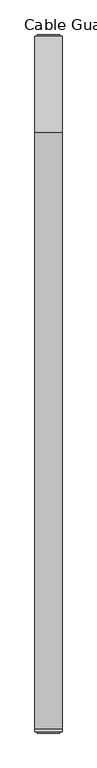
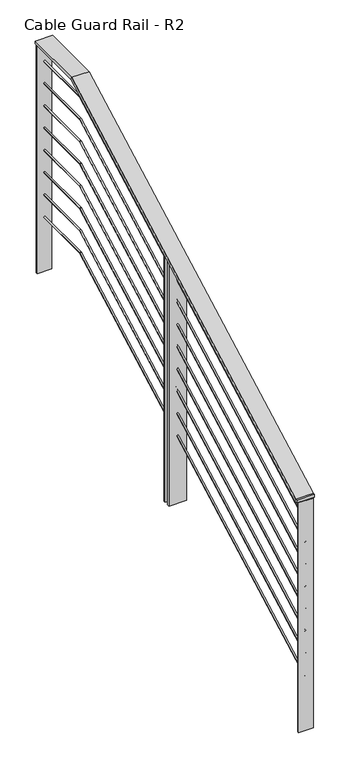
"""IFC4 building model written with IfcOpenShell, lengths in millimetres: railing geometry, Cable Guard Rail - R2."""

from ifc_helpers import new_model, si_unit, frame, origin, place, context, project, spatial, polyline, circle_curve, ellipse_curve, outline, extrude, faceted_brep, source, transform, mapped, element, save
from ifc_brep_helpers import plane_surface, cylinder_surface, advanced_brep


def cable_guard_rail_r2_296d2862(model_context):
    return source(origin(), model_context, "Body", "SolidModel", [
        faceted_brep([(26213.5044304, 188213.6496196, 295014.65), (26137.3044304, 188213.6496196, 295014.65), (26137.3044304, 188213.6496196, 295001.95), (26213.5044304, 188213.6496196, 295001.95), (26213.5044304, 188220.7414421, 295014.65), (26137.3044304, 188220.7414421, 295014.65), (26137.3044304, 188223.960099, 295001.95), (26213.5044304, 188223.960099, 295001.95), (26213.5044304, 189897.1414421, 295922.7), (26137.3044304, 189897.1414421, 295922.7), (26137.3044304, 189900.360099, 295910.0), (26213.5044304, 189900.360099, 295910.0), (26213.5044304, 190169.4496196, 295922.7), (26213.5044304, 190169.4496196, 295910.0), (26137.3044304, 190169.4496196, 295910.0), (26137.3044304, 190169.4496196, 295922.7)], [[[0, 1, 2, 3]], [[1, 0, 4, 5]], [[2, 1, 5, 6]], [[3, 2, 6, 7]], [[0, 3, 7, 4]], [[5, 4, 8, 9]], [[6, 5, 9, 10]], [[7, 6, 10, 11]], [[4, 7, 11, 8]], [[12, 13, 14, 15]], [[9, 8, 12, 15]], [[10, 9, 15, 14]], [[11, 10, 14, 13]], [[8, 11, 13, 12]]]),
        advanced_brep(
        [(26172.2294304, 188213.6496196, 294913.05), (26178.5794304, 188213.6496196, 294913.05), (26172.2294304, 188220.7414421, 294913.05), (26178.5794304, 188220.7414421, 294913.05), (26172.2294304, 189897.1414421, 295821.1), (26178.5794304, 189897.1414421, 295821.1), (26172.2294304, 190169.4496196, 295821.1), (26178.5794304, 190169.4496196, 295821.1)],
        [
            (0, 1, circle_curve(frame((26175.4044304, 188213.6496196, 294913.05), z_axis=(0.0, -1.0, 0.0), x_axis=(1.0, 0.0, 0.0)), 3.175)),
            (1, 0, circle_curve(frame((26175.4044304, 188213.6496196, 294913.05), z_axis=(0.0, -1.0, 0.0), x_axis=(1.0, 0.0, 0.0)), 3.175)),
            (0, 2),
            (2, 3, ellipse_curve(frame((26175.4044304, 188220.7414421, 294913.05), z_axis=(0.0, -0.9693533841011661, -0.24567054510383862), x_axis=(0.0, -0.24567054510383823, 0.9693533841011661)), 3.2753793, 3.175)),
            (3, 1),
            (3, 2, ellipse_curve(frame((26175.4044304, 188220.7414421, 294913.05), z_axis=(0.0, -0.9693533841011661, -0.24567054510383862), x_axis=(0.0, -0.24567054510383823, 0.9693533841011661)), 3.2753793, 3.175)),
            (2, 4),
            (4, 5, ellipse_curve(frame((26175.4044304, 189897.1414421, 295821.1), z_axis=(0.0, -0.9693533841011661, -0.24567054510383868), x_axis=(0.0, 0.24567054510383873, -0.969353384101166)), 3.2753793, 3.175)),
            (5, 3),
            (5, 4, ellipse_curve(frame((26175.4044304, 189897.1414421, 295821.1), z_axis=(0.0, -0.9693533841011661, -0.24567054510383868), x_axis=(0.0, 0.24567054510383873, -0.969353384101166)), 3.2753793, 3.175)),
            (6, 7, circle_curve(frame((26175.4044304, 190169.4496196, 295821.1), z_axis=(0.0, 1.0, 0.0), x_axis=(1.0, 0.0, 0.0)), 3.175)),
            (7, 6, circle_curve(frame((26175.4044304, 190169.4496196, 295821.1), z_axis=(0.0, 1.0, 0.0), x_axis=(1.0, 0.0, 0.0)), 3.175)),
            (4, 6),
            (7, 5),
        ],
        [
            plane_surface(frame((26175.4044304, 188213.6496196, 294913.05), z_axis=(0.0, -1.0, 0.0), x_axis=(0.0, 0.0, 1.0))),
            cylinder_surface(frame((26175.4044304, 188213.6496196, 294913.05), z_axis=(0.0, -1.0, 0.0), x_axis=(1.0, 0.0, 0.0)), 3.175),
            cylinder_surface(frame((26175.4044304, 188220.7414421, 294913.05), z_axis=(0.0, -0.8792919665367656, -0.4762831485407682), x_axis=(1.0, 0.0, 0.0)), 3.175),
            plane_surface(frame((26175.4044304, 190169.4496196, 295821.1), z_axis=(0.0, 1.0, 0.0), x_axis=(0.0, 0.0, 1.0))),
            cylinder_surface(frame((26175.4044304, 189897.1414421, 295821.1), z_axis=(0.0, -1.0, 0.0), x_axis=(1.0, 0.0, 0.0)), 3.175),
        ],
        [
            (0, [[1, 2]]),
            (1, [[-1, 3, 4, 5]]),
            (1, [[-2, -5, 6, -3]]),
            (2, [[-4, 7, 8, 9]]),
            (2, [[-6, -9, 10, -7]]),
            (3, [[11, 12]]),
            (4, [[-8, 13, -12, 14]]),
            (4, [[-10, -14, -11, -13]]),
        ],
    ),
        advanced_brep(
        [(26172.2294304, 188213.6496196, 294811.45), (26178.5794304, 188213.6496196, 294811.45), (26172.2294304, 188220.7414421, 294811.45), (26178.5794304, 188220.7414421, 294811.45), (26172.2294304, 189897.1414421, 295719.5), (26178.5794304, 189897.1414421, 295719.5), (26172.2294304, 190169.4496196, 295719.5), (26178.5794304, 190169.4496196, 295719.5)],
        [
            (0, 1, circle_curve(frame((26175.4044304, 188213.6496196, 294811.45), z_axis=(0.0, -1.0, 0.0), x_axis=(1.0, 0.0, 0.0)), 3.175)),
            (1, 0, circle_curve(frame((26175.4044304, 188213.6496196, 294811.45), z_axis=(0.0, -1.0, 0.0), x_axis=(1.0, 0.0, 0.0)), 3.175)),
            (0, 2),
            (2, 3, ellipse_curve(frame((26175.4044304, 188220.7414421, 294811.45), z_axis=(0.0, -0.9693533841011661, -0.24567054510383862), x_axis=(0.0, -0.24567054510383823, 0.9693533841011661)), 3.2753793, 3.175)),
            (3, 1),
            (3, 2, ellipse_curve(frame((26175.4044304, 188220.7414421, 294811.45), z_axis=(0.0, -0.9693533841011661, -0.24567054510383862), x_axis=(0.0, -0.24567054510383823, 0.9693533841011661)), 3.2753793, 3.175)),
            (2, 4),
            (4, 5, ellipse_curve(frame((26175.4044304, 189897.1414421, 295719.5), z_axis=(0.0, -0.9693533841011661, -0.24567054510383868), x_axis=(0.0, 0.24567054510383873, -0.969353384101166)), 3.2753793, 3.175)),
            (5, 3),
            (5, 4, ellipse_curve(frame((26175.4044304, 189897.1414421, 295719.5), z_axis=(0.0, -0.9693533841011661, -0.24567054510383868), x_axis=(0.0, 0.24567054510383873, -0.969353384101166)), 3.2753793, 3.175)),
            (6, 7, circle_curve(frame((26175.4044304, 190169.4496196, 295719.5), z_axis=(0.0, 1.0, 0.0), x_axis=(1.0, 0.0, 0.0)), 3.175)),
            (7, 6, circle_curve(frame((26175.4044304, 190169.4496196, 295719.5), z_axis=(0.0, 1.0, 0.0), x_axis=(1.0, 0.0, 0.0)), 3.175)),
            (4, 6),
            (7, 5),
        ],
        [
            plane_surface(frame((26175.4044304, 188213.6496196, 294811.45), z_axis=(0.0, -1.0, 0.0), x_axis=(0.0, 0.0, 1.0))),
            cylinder_surface(frame((26175.4044304, 188213.6496196, 294811.45), z_axis=(0.0, -1.0, 0.0), x_axis=(1.0, 0.0, 0.0)), 3.175),
            cylinder_surface(frame((26175.4044304, 188220.7414421, 294811.45), z_axis=(0.0, -0.8792919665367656, -0.4762831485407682), x_axis=(1.0, 0.0, 0.0)), 3.175),
            plane_surface(frame((26175.4044304, 190169.4496196, 295719.5), z_axis=(0.0, 1.0, 0.0), x_axis=(0.0, 0.0, 1.0))),
            cylinder_surface(frame((26175.4044304, 189897.1414421, 295719.5), z_axis=(0.0, -1.0, 0.0), x_axis=(1.0, 0.0, 0.0)), 3.175),
        ],
        [
            (0, [[1, 2]]),
            (1, [[-1, 3, 4, 5]]),
            (1, [[-2, -5, 6, -3]]),
            (2, [[-4, 7, 8, 9]]),
            (2, [[-6, -9, 10, -7]]),
            (3, [[11, 12]]),
            (4, [[-8, 13, -12, 14]]),
            (4, [[-10, -14, -11, -13]]),
        ],
    ),
        advanced_brep(
        [(26172.2294304, 188213.6496196, 294709.85), (26178.5794304, 188213.6496196, 294709.85), (26172.2294304, 188220.7414421, 294709.85), (26178.5794304, 188220.7414421, 294709.85), (26172.2294304, 189897.1414421, 295617.9), (26178.5794304, 189897.1414421, 295617.9), (26172.2294304, 190169.4496196, 295617.9), (26178.5794304, 190169.4496196, 295617.9)],
        [
            (0, 1, circle_curve(frame((26175.4044304, 188213.6496196, 294709.85), z_axis=(0.0, -1.0, 0.0), x_axis=(1.0, 0.0, 0.0)), 3.175)),
            (1, 0, circle_curve(frame((26175.4044304, 188213.6496196, 294709.85), z_axis=(0.0, -1.0, 0.0), x_axis=(1.0, 0.0, 0.0)), 3.175)),
            (0, 2),
            (2, 3, ellipse_curve(frame((26175.4044304, 188220.7414421, 294709.85), z_axis=(0.0, -0.9693533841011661, -0.24567054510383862), x_axis=(0.0, -0.24567054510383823, 0.9693533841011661)), 3.2753793, 3.175)),
            (3, 1),
            (3, 2, ellipse_curve(frame((26175.4044304, 188220.7414421, 294709.85), z_axis=(0.0, -0.9693533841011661, -0.24567054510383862), x_axis=(0.0, -0.24567054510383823, 0.9693533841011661)), 3.2753793, 3.175)),
            (2, 4),
            (4, 5, ellipse_curve(frame((26175.4044304, 189897.1414421, 295617.9), z_axis=(0.0, -0.9693533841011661, -0.24567054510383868), x_axis=(0.0, 0.24567054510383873, -0.969353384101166)), 3.2753793, 3.175)),
            (5, 3),
            (5, 4, ellipse_curve(frame((26175.4044304, 189897.1414421, 295617.9), z_axis=(0.0, -0.9693533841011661, -0.24567054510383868), x_axis=(0.0, 0.24567054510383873, -0.969353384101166)), 3.2753793, 3.175)),
            (6, 7, circle_curve(frame((26175.4044304, 190169.4496196, 295617.9), z_axis=(0.0, 1.0, 0.0), x_axis=(1.0, 0.0, 0.0)), 3.175)),
            (7, 6, circle_curve(frame((26175.4044304, 190169.4496196, 295617.9), z_axis=(0.0, 1.0, 0.0), x_axis=(1.0, 0.0, 0.0)), 3.175)),
            (4, 6),
            (7, 5),
        ],
        [
            plane_surface(frame((26175.4044304, 188213.6496196, 294709.85), z_axis=(0.0, -1.0, 0.0), x_axis=(0.0, 0.0, 1.0))),
            cylinder_surface(frame((26175.4044304, 188213.6496196, 294709.85), z_axis=(0.0, -1.0, 0.0), x_axis=(1.0, 0.0, 0.0)), 3.175),
            cylinder_surface(frame((26175.4044304, 188220.7414421, 294709.85), z_axis=(0.0, -0.8792919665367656, -0.4762831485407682), x_axis=(1.0, 0.0, 0.0)), 3.175),
            plane_surface(frame((26175.4044304, 190169.4496196, 295617.9), z_axis=(0.0, 1.0, 0.0), x_axis=(0.0, 0.0, 1.0))),
            cylinder_surface(frame((26175.4044304, 189897.1414421, 295617.9), z_axis=(0.0, -1.0, 0.0), x_axis=(1.0, 0.0, 0.0)), 3.175),
        ],
        [
            (0, [[1, 2]]),
            (1, [[-1, 3, 4, 5]]),
            (1, [[-2, -5, 6, -3]]),
            (2, [[-4, 7, 8, 9]]),
            (2, [[-6, -9, 10, -7]]),
            (3, [[11, 12]]),
            (4, [[-8, 13, -12, 14]]),
            (4, [[-10, -14, -11, -13]]),
        ],
    ),
        advanced_brep(
        [(26172.2294304, 188213.6496196, 294608.25), (26178.5794304, 188213.6496196, 294608.25), (26172.2294304, 188220.7414421, 294608.25), (26178.5794304, 188220.7414421, 294608.25), (26172.2294304, 189897.1414421, 295516.3), (26178.5794304, 189897.1414421, 295516.3), (26172.2294304, 190169.4496196, 295516.3), (26178.5794304, 190169.4496196, 295516.3)],
        [
            (0, 1, circle_curve(frame((26175.4044304, 188213.6496196, 294608.25), z_axis=(0.0, -1.0, 0.0), x_axis=(1.0, 0.0, 0.0)), 3.175)),
            (1, 0, circle_curve(frame((26175.4044304, 188213.6496196, 294608.25), z_axis=(0.0, -1.0, 0.0), x_axis=(1.0, 0.0, 0.0)), 3.175)),
            (0, 2),
            (2, 3, ellipse_curve(frame((26175.4044304, 188220.7414421, 294608.25), z_axis=(0.0, -0.9693533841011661, -0.24567054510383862), x_axis=(0.0, -0.24567054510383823, 0.9693533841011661)), 3.2753793, 3.175)),
            (3, 1),
            (3, 2, ellipse_curve(frame((26175.4044304, 188220.7414421, 294608.25), z_axis=(0.0, -0.9693533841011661, -0.24567054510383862), x_axis=(0.0, -0.24567054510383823, 0.9693533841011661)), 3.2753793, 3.175)),
            (2, 4),
            (4, 5, ellipse_curve(frame((26175.4044304, 189897.1414421, 295516.3), z_axis=(0.0, -0.9693533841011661, -0.24567054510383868), x_axis=(0.0, 0.24567054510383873, -0.969353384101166)), 3.2753793, 3.175)),
            (5, 3),
            (5, 4, ellipse_curve(frame((26175.4044304, 189897.1414421, 295516.3), z_axis=(0.0, -0.9693533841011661, -0.24567054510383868), x_axis=(0.0, 0.24567054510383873, -0.969353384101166)), 3.2753793, 3.175)),
            (6, 7, circle_curve(frame((26175.4044304, 190169.4496196, 295516.3), z_axis=(0.0, 1.0, 0.0), x_axis=(1.0, 0.0, 0.0)), 3.175)),
            (7, 6, circle_curve(frame((26175.4044304, 190169.4496196, 295516.3), z_axis=(0.0, 1.0, 0.0), x_axis=(1.0, 0.0, 0.0)), 3.175)),
            (4, 6),
            (7, 5),
        ],
        [
            plane_surface(frame((26175.4044304, 188213.6496196, 294608.25), z_axis=(0.0, -1.0, 0.0), x_axis=(0.0, 0.0, 1.0))),
            cylinder_surface(frame((26175.4044304, 188213.6496196, 294608.25), z_axis=(0.0, -1.0, 0.0), x_axis=(1.0, 0.0, 0.0)), 3.175),
            cylinder_surface(frame((26175.4044304, 188220.7414421, 294608.25), z_axis=(0.0, -0.8792919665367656, -0.4762831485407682), x_axis=(1.0, 0.0, 0.0)), 3.175),
            plane_surface(frame((26175.4044304, 190169.4496196, 295516.3), z_axis=(0.0, 1.0, 0.0), x_axis=(0.0, 0.0, 1.0))),
            cylinder_surface(frame((26175.4044304, 189897.1414421, 295516.3), z_axis=(0.0, -1.0, 0.0), x_axis=(1.0, 0.0, 0.0)), 3.175),
        ],
        [
            (0, [[1, 2]]),
            (1, [[-1, 3, 4, 5]]),
            (1, [[-2, -5, 6, -3]]),
            (2, [[-4, 7, 8, 9]]),
            (2, [[-6, -9, 10, -7]]),
            (3, [[11, 12]]),
            (4, [[-8, 13, -12, 14]]),
            (4, [[-10, -14, -11, -13]]),
        ],
    ),
        advanced_brep(
        [(26172.2294304, 188213.6496196, 294506.65), (26178.5794304, 188213.6496196, 294506.65), (26172.2294304, 188220.7414421, 294506.65), (26178.5794304, 188220.7414421, 294506.65), (26172.2294304, 189897.1414421, 295414.7), (26178.5794304, 189897.1414421, 295414.7), (26172.2294304, 190169.4496196, 295414.7), (26178.5794304, 190169.4496196, 295414.7)],
        [
            (0, 1, circle_curve(frame((26175.4044304, 188213.6496196, 294506.65), z_axis=(0.0, -1.0, 0.0), x_axis=(1.0, 0.0, 0.0)), 3.175)),
            (1, 0, circle_curve(frame((26175.4044304, 188213.6496196, 294506.65), z_axis=(0.0, -1.0, 0.0), x_axis=(1.0, 0.0, 0.0)), 3.175)),
            (0, 2),
            (2, 3, ellipse_curve(frame((26175.4044304, 188220.7414421, 294506.65), z_axis=(0.0, -0.9693533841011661, -0.24567054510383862), x_axis=(0.0, -0.24567054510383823, 0.9693533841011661)), 3.2753793, 3.175)),
            (3, 1),
            (3, 2, ellipse_curve(frame((26175.4044304, 188220.7414421, 294506.65), z_axis=(0.0, -0.9693533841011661, -0.24567054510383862), x_axis=(0.0, -0.24567054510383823, 0.9693533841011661)), 3.2753793, 3.175)),
            (2, 4),
            (4, 5, ellipse_curve(frame((26175.4044304, 189897.1414421, 295414.7), z_axis=(0.0, -0.9693533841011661, -0.24567054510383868), x_axis=(0.0, 0.24567054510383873, -0.969353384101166)), 3.2753793, 3.175)),
            (5, 3),
            (5, 4, ellipse_curve(frame((26175.4044304, 189897.1414421, 295414.7), z_axis=(0.0, -0.9693533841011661, -0.24567054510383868), x_axis=(0.0, 0.24567054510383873, -0.969353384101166)), 3.2753793, 3.175)),
            (6, 7, circle_curve(frame((26175.4044304, 190169.4496196, 295414.7), z_axis=(0.0, 1.0, 0.0), x_axis=(1.0, 0.0, 0.0)), 3.175)),
            (7, 6, circle_curve(frame((26175.4044304, 190169.4496196, 295414.7), z_axis=(0.0, 1.0, 0.0), x_axis=(1.0, 0.0, 0.0)), 3.175)),
            (4, 6),
            (7, 5),
        ],
        [
            plane_surface(frame((26175.4044304, 188213.6496196, 294506.65), z_axis=(0.0, -1.0, 0.0), x_axis=(0.0, 0.0, 1.0))),
            cylinder_surface(frame((26175.4044304, 188213.6496196, 294506.65), z_axis=(0.0, -1.0, 0.0), x_axis=(1.0, 0.0, 0.0)), 3.175),
            cylinder_surface(frame((26175.4044304, 188220.7414421, 294506.65), z_axis=(0.0, -0.8792919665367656, -0.4762831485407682), x_axis=(1.0, 0.0, 0.0)), 3.175),
            plane_surface(frame((26175.4044304, 190169.4496196, 295414.7), z_axis=(0.0, 1.0, 0.0), x_axis=(0.0, 0.0, 1.0))),
            cylinder_surface(frame((26175.4044304, 189897.1414421, 295414.7), z_axis=(0.0, -1.0, 0.0), x_axis=(1.0, 0.0, 0.0)), 3.175),
        ],
        [
            (0, [[1, 2]]),
            (1, [[-1, 3, 4, 5]]),
            (1, [[-2, -5, 6, -3]]),
            (2, [[-4, 7, 8, 9]]),
            (2, [[-6, -9, 10, -7]]),
            (3, [[11, 12]]),
            (4, [[-8, 13, -12, 14]]),
            (4, [[-10, -14, -11, -13]]),
        ],
    ),
        advanced_brep(
        [(26172.2294304, 188213.6496196, 294405.05), (26178.5794304, 188213.6496196, 294405.05), (26172.2294304, 188220.7414421, 294405.05), (26178.5794304, 188220.7414421, 294405.05), (26172.2294304, 189897.1414421, 295313.1), (26178.5794304, 189897.1414421, 295313.1), (26172.2294304, 190169.4496196, 295313.1), (26178.5794304, 190169.4496196, 295313.1)],
        [
            (0, 1, circle_curve(frame((26175.4044304, 188213.6496196, 294405.05), z_axis=(0.0, -1.0, 0.0), x_axis=(1.0, 0.0, 0.0)), 3.175)),
            (1, 0, circle_curve(frame((26175.4044304, 188213.6496196, 294405.05), z_axis=(0.0, -1.0, 0.0), x_axis=(1.0, 0.0, 0.0)), 3.175)),
            (0, 2),
            (2, 3, ellipse_curve(frame((26175.4044304, 188220.7414421, 294405.05), z_axis=(0.0, -0.9693533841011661, -0.24567054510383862), x_axis=(0.0, -0.24567054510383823, 0.9693533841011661)), 3.2753793, 3.175)),
            (3, 1),
            (3, 2, ellipse_curve(frame((26175.4044304, 188220.7414421, 294405.05), z_axis=(0.0, -0.9693533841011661, -0.24567054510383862), x_axis=(0.0, -0.24567054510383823, 0.9693533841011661)), 3.2753793, 3.175)),
            (2, 4),
            (4, 5, ellipse_curve(frame((26175.4044304, 189897.1414421, 295313.1), z_axis=(0.0, -0.9693533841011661, -0.24567054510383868), x_axis=(0.0, 0.24567054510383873, -0.969353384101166)), 3.2753793, 3.175)),
            (5, 3),
            (5, 4, ellipse_curve(frame((26175.4044304, 189897.1414421, 295313.1), z_axis=(0.0, -0.9693533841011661, -0.24567054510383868), x_axis=(0.0, 0.24567054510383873, -0.969353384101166)), 3.2753793, 3.175)),
            (6, 7, circle_curve(frame((26175.4044304, 190169.4496196, 295313.1), z_axis=(0.0, 1.0, 0.0), x_axis=(1.0, 0.0, 0.0)), 3.175)),
            (7, 6, circle_curve(frame((26175.4044304, 190169.4496196, 295313.1), z_axis=(0.0, 1.0, 0.0), x_axis=(1.0, 0.0, 0.0)), 3.175)),
            (4, 6),
            (7, 5),
        ],
        [
            plane_surface(frame((26175.4044304, 188213.6496196, 294405.05), z_axis=(0.0, -1.0, 0.0), x_axis=(0.0, 0.0, 1.0))),
            cylinder_surface(frame((26175.4044304, 188213.6496196, 294405.05), z_axis=(0.0, -1.0, 0.0), x_axis=(1.0, 0.0, 0.0)), 3.175),
            cylinder_surface(frame((26175.4044304, 188220.7414421, 294405.05), z_axis=(0.0, -0.8792919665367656, -0.4762831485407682), x_axis=(1.0, 0.0, 0.0)), 3.175),
            plane_surface(frame((26175.4044304, 190169.4496196, 295313.1), z_axis=(0.0, 1.0, 0.0), x_axis=(0.0, 0.0, 1.0))),
            cylinder_surface(frame((26175.4044304, 189897.1414421, 295313.1), z_axis=(0.0, -1.0, 0.0), x_axis=(1.0, 0.0, 0.0)), 3.175),
        ],
        [
            (0, [[1, 2]]),
            (1, [[-1, 3, 4, 5]]),
            (1, [[-2, -5, 6, -3]]),
            (2, [[-4, 7, 8, 9]]),
            (2, [[-6, -9, 10, -7]]),
            (3, [[11, 12]]),
            (4, [[-8, 13, -12, 14]]),
            (4, [[-10, -14, -11, -13]]),
        ],
    ),
        advanced_brep(
        [(26172.2294304, 188213.6496196, 294303.45), (26178.5794304, 188213.6496196, 294303.45), (26172.2294304, 188220.7414421, 294303.45), (26178.5794304, 188220.7414421, 294303.45), (26172.2294304, 189897.1414421, 295211.5), (26178.5794304, 189897.1414421, 295211.5), (26172.2294304, 190169.4496196, 295211.5), (26178.5794304, 190169.4496196, 295211.5)],
        [
            (0, 1, circle_curve(frame((26175.4044304, 188213.6496196, 294303.45), z_axis=(0.0, -1.0, 0.0), x_axis=(1.0, 0.0, 0.0)), 3.175)),
            (1, 0, circle_curve(frame((26175.4044304, 188213.6496196, 294303.45), z_axis=(0.0, -1.0, 0.0), x_axis=(1.0, 0.0, 0.0)), 3.175)),
            (0, 2),
            (2, 3, ellipse_curve(frame((26175.4044304, 188220.7414421, 294303.45), z_axis=(0.0, -0.9693533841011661, -0.24567054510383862), x_axis=(0.0, -0.24567054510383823, 0.9693533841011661)), 3.2753793, 3.175)),
            (3, 1),
            (3, 2, ellipse_curve(frame((26175.4044304, 188220.7414421, 294303.45), z_axis=(0.0, -0.9693533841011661, -0.24567054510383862), x_axis=(0.0, -0.24567054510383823, 0.9693533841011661)), 3.2753793, 3.175)),
            (2, 4),
            (4, 5, ellipse_curve(frame((26175.4044304, 189897.1414421, 295211.5), z_axis=(0.0, -0.9693533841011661, -0.24567054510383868), x_axis=(0.0, 0.24567054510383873, -0.969353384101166)), 3.2753793, 3.175)),
            (5, 3),
            (5, 4, ellipse_curve(frame((26175.4044304, 189897.1414421, 295211.5), z_axis=(0.0, -0.9693533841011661, -0.24567054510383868), x_axis=(0.0, 0.24567054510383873, -0.969353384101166)), 3.2753793, 3.175)),
            (6, 7, circle_curve(frame((26175.4044304, 190169.4496196, 295211.5), z_axis=(0.0, 1.0, 0.0), x_axis=(1.0, 0.0, 0.0)), 3.175)),
            (7, 6, circle_curve(frame((26175.4044304, 190169.4496196, 295211.5), z_axis=(0.0, 1.0, 0.0), x_axis=(1.0, 0.0, 0.0)), 3.175)),
            (4, 6),
            (7, 5),
        ],
        [
            plane_surface(frame((26175.4044304, 188213.6496196, 294303.45), z_axis=(0.0, -1.0, 0.0), x_axis=(0.0, 0.0, 1.0))),
            cylinder_surface(frame((26175.4044304, 188213.6496196, 294303.45), z_axis=(0.0, -1.0, 0.0), x_axis=(1.0, 0.0, 0.0)), 3.175),
            cylinder_surface(frame((26175.4044304, 188220.7414421, 294303.45), z_axis=(0.0, -0.8792919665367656, -0.4762831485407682), x_axis=(1.0, 0.0, 0.0)), 3.175),
            plane_surface(frame((26175.4044304, 190169.4496196, 295211.5), z_axis=(0.0, 1.0, 0.0), x_axis=(0.0, 0.0, 1.0))),
            cylinder_surface(frame((26175.4044304, 189897.1414421, 295211.5), z_axis=(0.0, -1.0, 0.0), x_axis=(1.0, 0.0, 0.0)), 3.175),
        ],
        [
            (0, [[1, 2]]),
            (1, [[-1, 3, 4, 5]]),
            (1, [[-2, -5, 6, -3]]),
            (2, [[-4, 7, 8, 9]]),
            (2, [[-6, -9, 10, -7]]),
            (3, [[11, 12]]),
            (4, [[-8, 13, -12, 14]]),
            (4, [[-10, -14, -11, -13]]),
        ],
    ),
        advanced_brep(
        [(26172.2294304, 188213.6496196, 294201.85), (26178.5794304, 188213.6496196, 294201.85), (26172.2294304, 188220.7414421, 294201.85), (26178.5794304, 188220.7414421, 294201.85), (26172.2294304, 189897.1414421, 295109.9), (26178.5794304, 189897.1414421, 295109.9), (26172.2294304, 190169.4496196, 295109.9), (26178.5794304, 190169.4496196, 295109.9)],
        [
            (0, 1, circle_curve(frame((26175.4044304, 188213.6496196, 294201.85), z_axis=(0.0, -1.0, 0.0), x_axis=(1.0, 0.0, 0.0)), 3.175)),
            (1, 0, circle_curve(frame((26175.4044304, 188213.6496196, 294201.85), z_axis=(0.0, -1.0, 0.0), x_axis=(1.0, 0.0, 0.0)), 3.175)),
            (0, 2),
            (2, 3, ellipse_curve(frame((26175.4044304, 188220.7414421, 294201.85), z_axis=(0.0, -0.9693533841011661, -0.24567054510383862), x_axis=(0.0, -0.24567054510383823, 0.9693533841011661)), 3.2753793, 3.175)),
            (3, 1),
            (3, 2, ellipse_curve(frame((26175.4044304, 188220.7414421, 294201.85), z_axis=(0.0, -0.9693533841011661, -0.24567054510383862), x_axis=(0.0, -0.24567054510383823, 0.9693533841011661)), 3.2753793, 3.175)),
            (2, 4),
            (4, 5, ellipse_curve(frame((26175.4044304, 189897.1414421, 295109.9), z_axis=(0.0, -0.9693533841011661, -0.24567054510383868), x_axis=(0.0, 0.24567054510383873, -0.969353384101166)), 3.2753793, 3.175)),
            (5, 3),
            (5, 4, ellipse_curve(frame((26175.4044304, 189897.1414421, 295109.9), z_axis=(0.0, -0.9693533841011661, -0.24567054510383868), x_axis=(0.0, 0.24567054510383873, -0.969353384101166)), 3.2753793, 3.175)),
            (6, 7, circle_curve(frame((26175.4044304, 190169.4496196, 295109.9), z_axis=(0.0, 1.0, 0.0), x_axis=(1.0, 0.0, 0.0)), 3.175)),
            (7, 6, circle_curve(frame((26175.4044304, 190169.4496196, 295109.9), z_axis=(0.0, 1.0, 0.0), x_axis=(1.0, 0.0, 0.0)), 3.175)),
            (4, 6),
            (7, 5),
        ],
        [
            plane_surface(frame((26175.4044304, 188213.6496196, 294201.85), z_axis=(0.0, -1.0, 0.0), x_axis=(0.0, 0.0, 1.0))),
            cylinder_surface(frame((26175.4044304, 188213.6496196, 294201.85), z_axis=(0.0, -1.0, 0.0), x_axis=(1.0, 0.0, 0.0)), 3.175),
            cylinder_surface(frame((26175.4044304, 188220.7414421, 294201.85), z_axis=(0.0, -0.8792919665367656, -0.4762831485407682), x_axis=(1.0, 0.0, 0.0)), 3.175),
            plane_surface(frame((26175.4044304, 190169.4496196, 295109.9), z_axis=(0.0, 1.0, 0.0), x_axis=(0.0, 0.0, 1.0))),
            cylinder_surface(frame((26175.4044304, 189897.1414421, 295109.9), z_axis=(0.0, -1.0, 0.0), x_axis=(1.0, 0.0, 0.0)), 3.175),
        ],
        [
            (0, [[1, 2]]),
            (1, [[-1, 3, 4, 5]]),
            (1, [[-2, -5, 6, -3]]),
            (2, [[-4, 7, 8, 9]]),
            (2, [[-6, -9, 10, -7]]),
            (3, [[11, 12]]),
            (4, [[-8, 13, -12, 14]]),
            (4, [[-10, -14, -11, -13]]),
        ],
    ),
        extrude(outline(polyline([(26137.3044304, 189169.3246196), (26137.3044304, 189178.8496196), (26213.5044304, 189178.8496196), (26213.5044304, 189169.3246196), (26137.3044304, 189169.3246196)])), frame((0.0, 0.0, 294408.225), z_axis=(0.0, 0.0, 1.0), x_axis=(1.0, 0.0, 0.0)), (0.0, 0.0, 1.0), 1119.5794295),
        extrude(outline(polyline([(26137.3044304, 189197.8996196), (26137.3044304, 189207.3763842), (26213.5044304, 189207.3763842), (26213.5044304, 189197.8996196), (26137.3044304, 189197.8996196)])), frame((0.0, 0.0, 294408.225), z_axis=(0.0, 0.0, 1.0), x_axis=(1.0, 0.0, 0.0)), (0.0, 0.0, 1.0), 1119.5794295),
        extrude(outline(polyline([(26143.6544304, 190166.2746196), (26143.6544304, 190172.6246196), (26207.1544304, 190172.6246196), (26207.1544304, 190166.2746196), (26143.6544304, 190166.2746196)])), frame((0.0, 0.0, 294862.25), z_axis=(0.0, 0.0, 1.0), x_axis=(1.0, 0.0, 0.0)), (0.0, 0.0, 1.0), 1047.75),
        extrude(outline(polyline([(26143.6544304, 188210.4746196), (26143.6544304, 188216.8246196), (26207.1544304, 188216.8246196), (26207.1544304, 188210.4746196), (26143.6544304, 188210.4746196)])), frame((0.0, 0.0, 293954.2), z_axis=(0.0, 0.0, 1.0), x_axis=(1.0, 0.0, 0.0)), (0.0, 0.0, 1.0), 1047.75),
    ])


if __name__ == "__main__":
    model = new_model("IFC4")
    model_context = context("Model", 3, world=origin())
    ifc_project = project(units=[si_unit("LENGTHUNIT", "METRE", prefix="MILLI")], contexts=[model_context])
    site = spatial("IfcSite", under=ifc_project)
    building = spatial("IfcBuilding", under=site)
    placement = place(None, origin())
    cable_guard_rail_r2_shape = cable_guard_rail_r2_296d2862(model_context)
    element("IfcRailing", 1, ObjectType="Cable Guard Rail - R2", at=placement, inside=building, context=model_context, shape_type="MappedRepresentation", body=[
        mapped(cable_guard_rail_r2_shape, transform((0.0, 0.0, 0.0), x_axis=(1.0, 0.0, 0.0), y_axis=(0.0, 1.0, 0.0), z_axis=(0.0, 0.0, 1.0))),
    ])
    save(model, "model.ifc")
